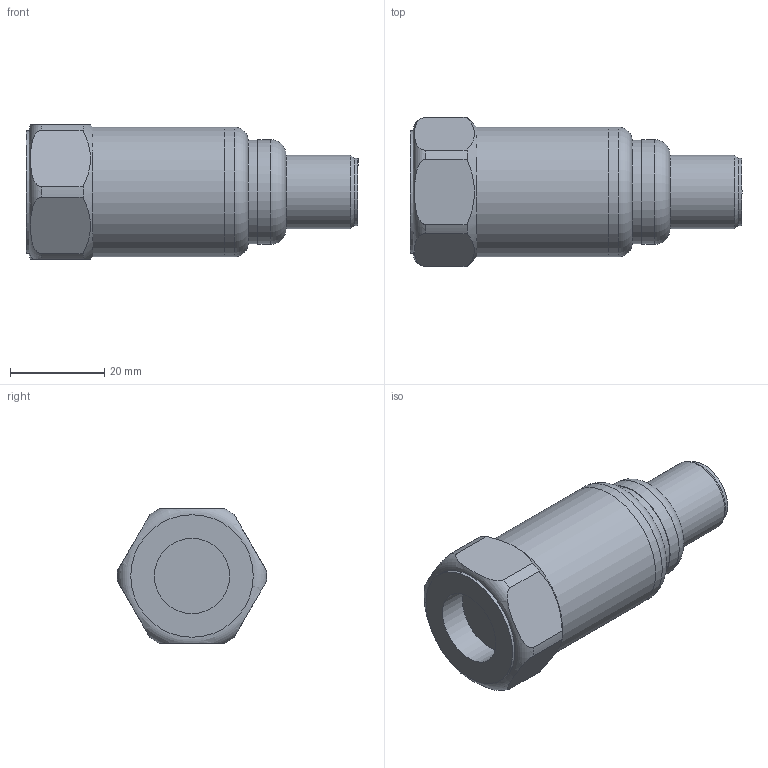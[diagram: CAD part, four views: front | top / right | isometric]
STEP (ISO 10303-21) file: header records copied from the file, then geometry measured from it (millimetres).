
FILE_DESCRIPTION(/* description */ (''),/* implementation_level */ '2;1');
FILE_NAME(/* name */ 'Z:\Engineering\Drawings\3D Library\Assemblies\Website\HS-420XXX5005.stp',/* time_stamp */ '2023-04-05T21:28:49+01:00',/* author */ ('Ricardo.Peneda'),/* organization */ (''),/* preprocessor_version */ 'ST-DEVELOPER v18.1',/* originating_system */ 'Autodesk Inventor 2021',/* authorisation */ '');
FILE_SCHEMA (('AUTOMOTIVE_DESIGN { 1 0 10303 214 3 1 1 }'));
Length unit declared in the file: inch
Products named in the file (1): HS-420XXX5005_Shrinkwrap_1
Bounding box: 70.47 x 31.69 x 28.5 mm (x, y, z)
Volume: 14537.7 mm3; surface area: 11937.8 mm2
Topology: 3 solids, 3 shells, 46 faces, 122 edges, 88 vertices
Faces by surface type: cylinder 20, plane 18, cone 4, torus 4
Full cylindrical faces by diameter (mm): 11.37 x1, 14.28 x1, 15.7 x1, 16 x1, 19 x1, 20 x1, 22 x1, 22.2 x1, 23.3 x1, 25.3 x2, 26 x1, 27.5 x2
Entity records: 1706 total; most frequent: CARTESIAN_POINT 403, DIRECTION 280, ORIENTED_EDGE 244, AXIS2_PLACEMENT_3D 125, EDGE_CURVE 122, VERTEX_POINT 88, CIRCLE 78, EDGE_LOOP 54
